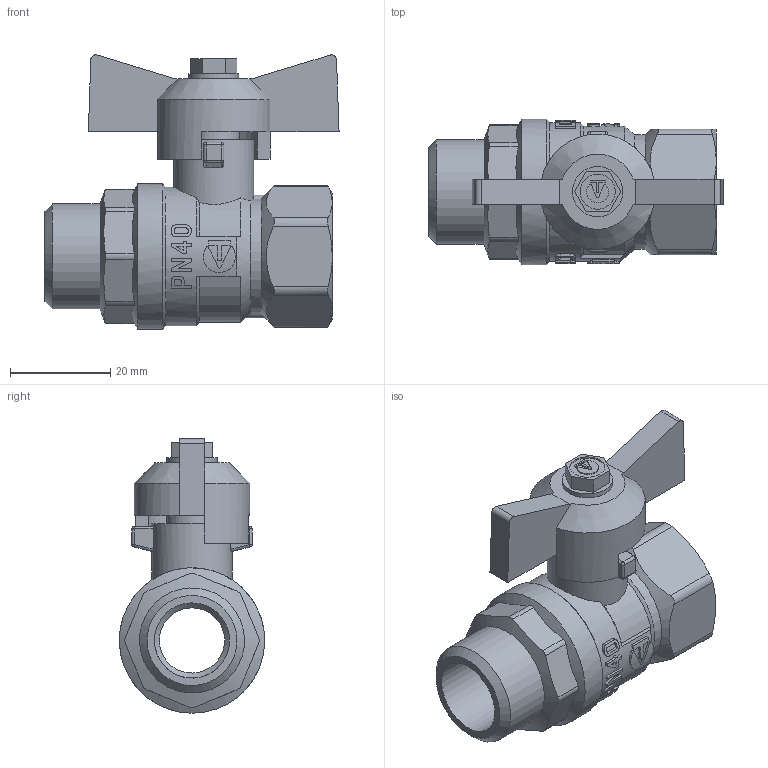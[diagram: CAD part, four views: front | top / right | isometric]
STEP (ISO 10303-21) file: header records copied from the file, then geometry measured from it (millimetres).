
FILE_DESCRIPTION(('STEP AP203'), '1');
FILE_NAME('VT.123.GN.04', '', ('UNSPECIFIED'), ('UNSPECIFIED'), 'C3D Converter', 'C3D Toolkit', '');
FILE_SCHEMA(('CONFIG_CONTROL_DESIGN'));
Length unit declared in the file: millimetre
Products named in the file (1): VT.123.GN.04
Bounding box: 58.65 x 29 x 54.72 mm (x, y, z)
Volume: 27660.9 mm3; surface area: 11692.7 mm2
Topology: 1 solids, 1 shells, 307 faces, 809 edges, 522 vertices
Faces by surface type: plane 166, cylinder 114, cone 19, sphere 4, bspline 4
Full cylindrical faces by diameter (mm): 7 x1, 10 x1, 10.2 x1, 13 x1, 15 x1, 16 x1, 18.632 x1, 20.955 x1, 27.6 x1, 29 x1
Entity records: 13110 total; most frequent: CARTESIAN_POINT 5854, ORIENTED_EDGE 1562, DIRECTION 1383, EDGE_CURVE 781, VERTEX_POINT 520, AXIS2_PLACEMENT_3D 492, LINE 399, VECTOR 399
